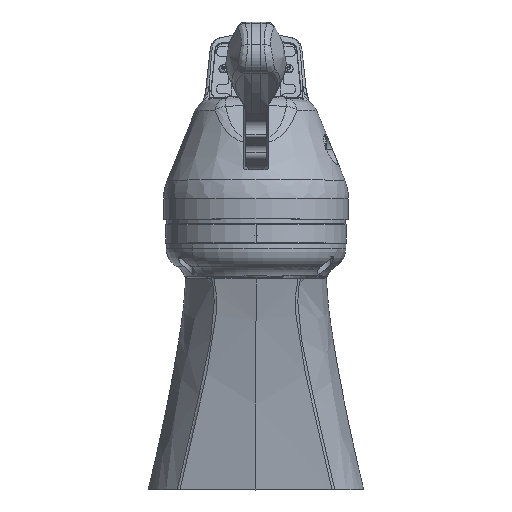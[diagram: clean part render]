
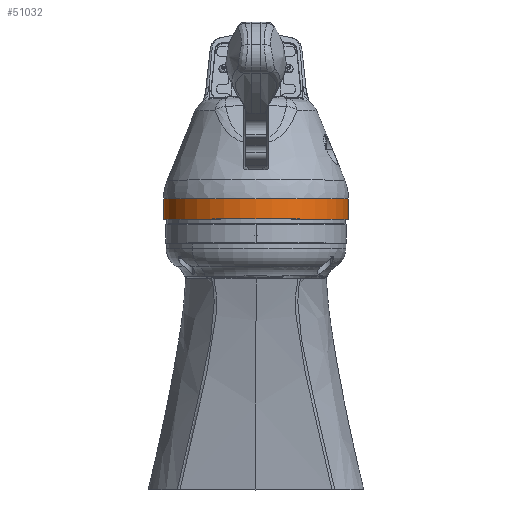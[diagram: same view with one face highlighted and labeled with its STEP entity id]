
A CAD part, top view. The second image highlights one B-rep face of the part: STEP entity #51032.
In plain terms, the highlighted cylindrical face has radius 58.7 mm (diameter 117.4 mm), a partial arc.
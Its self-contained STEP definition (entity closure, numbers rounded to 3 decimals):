
#925 = DIRECTION ( 'NONE',  ( 0., -1., 0. ) ) ;
#1516 = DIRECTION ( 'NONE',  ( 0., 0., -1. ) ) ;
#8006 = CARTESIAN_POINT ( 'NONE',  ( 0., 171.45, -58.7 ) ) ;
#9219 = CARTESIAN_POINT ( 'NONE',  ( 0., 171.45, 58.7 ) ) ;
#11584 = LINE ( 'NONE', #77576, #62751 ) ;
#16163 = FACE_OUTER_BOUND ( 'NONE', #72313, .T. ) ;
#25356 = CARTESIAN_POINT ( 'NONE',  ( 0., 184.224, 0. ) ) ;
#27637 = CIRCLE ( 'NONE', #44971, 58.7 ) ;
#31185 = VERTEX_POINT ( 'NONE', #73619 ) ;
#32286 = DIRECTION ( 'NONE',  ( 0., 0., 1. ) ) ;
#35619 = DIRECTION ( 'NONE',  ( 0., -1., 0. ) ) ;
#38165 = VERTEX_POINT ( 'NONE', #9219 ) ;
#42716 = DIRECTION ( 'NONE',  ( 0., -1., 0. ) ) ;
#44971 = AXIS2_PLACEMENT_3D ( 'NONE', #84603, #42716, #1516 ) ;
#46436 = AXIS2_PLACEMENT_3D ( 'NONE', #25356, #74285, #32286 ) ;
#48499 = VECTOR ( 'NONE', #925, 1000. ) ;
#48536 = VERTEX_POINT ( 'NONE', #72491 ) ;
#51032 = ADVANCED_FACE ( 'NONE', ( #16163 ), #67370, .T. ) ;
#53059 = ORIENTED_EDGE ( 'NONE', *, *, #87243, .T. ) ;
#58539 = ORIENTED_EDGE ( 'NONE', *, *, #87631, .F. ) ;
#59475 = DIRECTION ( 'NONE',  ( 0., -1., 0. ) ) ;
#59781 = CARTESIAN_POINT ( 'NONE',  ( 0., 171.45, 0. ) ) ;
#62751 = VECTOR ( 'NONE', #35619, 1000. ) ;
#63145 = DIRECTION ( 'NONE',  ( 0., 0., -1. ) ) ;
#67145 = LINE ( 'NONE', #70321, #48499 ) ;
#67370 = CYLINDRICAL_SURFACE ( 'NONE', #76589, 58.7 ) ;
#67871 = ORIENTED_EDGE ( 'NONE', *, *, #87647, .F. ) ;
#70321 = CARTESIAN_POINT ( 'NONE',  ( 0., 171.45, 58.7 ) ) ;
#72313 = EDGE_LOOP ( 'NONE', ( #53059, #72613, #58539, #67871 ) ) ;
#72491 = CARTESIAN_POINT ( 'NONE',  ( 0., 184.224, 58.7 ) ) ;
#72613 = ORIENTED_EDGE ( 'NONE', *, *, #87619, .T. ) ;
#73619 = CARTESIAN_POINT ( 'NONE',  ( 0., 184.224, -58.7 ) ) ;
#74285 = DIRECTION ( 'NONE',  ( 0., -1., 0. ) ) ;
#75870 = CIRCLE ( 'NONE', #46436, 58.7 ) ;
#76589 = AXIS2_PLACEMENT_3D ( 'NONE', #59781, #59475, #63145 ) ;
#77576 = CARTESIAN_POINT ( 'NONE',  ( 0., 171.45, -58.7 ) ) ;
#79250 = VERTEX_POINT ( 'NONE', #8006 ) ;
#84603 = CARTESIAN_POINT ( 'NONE',  ( 0., 171.45, 0. ) ) ;
#87243 = EDGE_CURVE ( 'NONE', #31185, #48536, #75870, .T. ) ;
#87619 = EDGE_CURVE ( 'NONE', #48536, #38165, #67145, .T. ) ;
#87631 = EDGE_CURVE ( 'NONE', #79250, #38165, #27637, .T. ) ;
#87647 = EDGE_CURVE ( 'NONE', #31185, #79250, #11584, .T. ) ;
